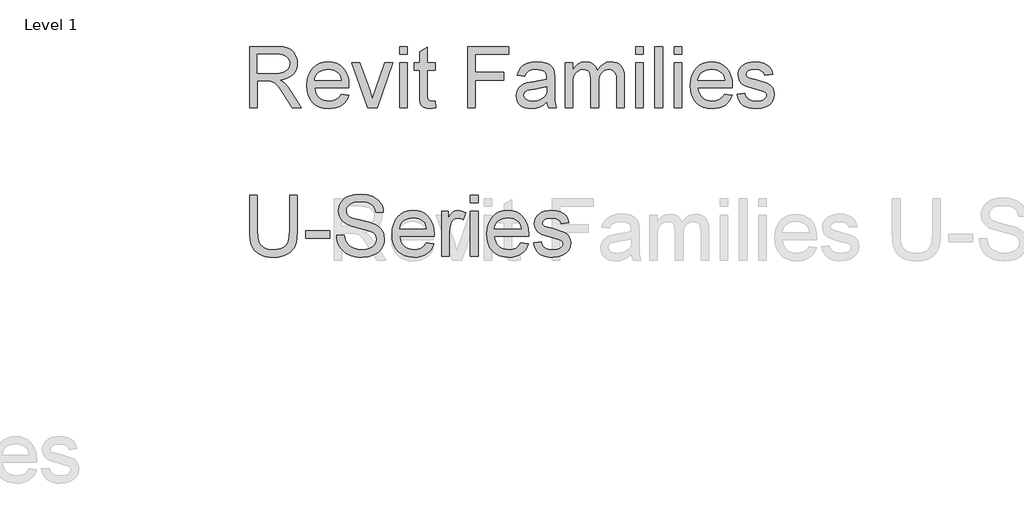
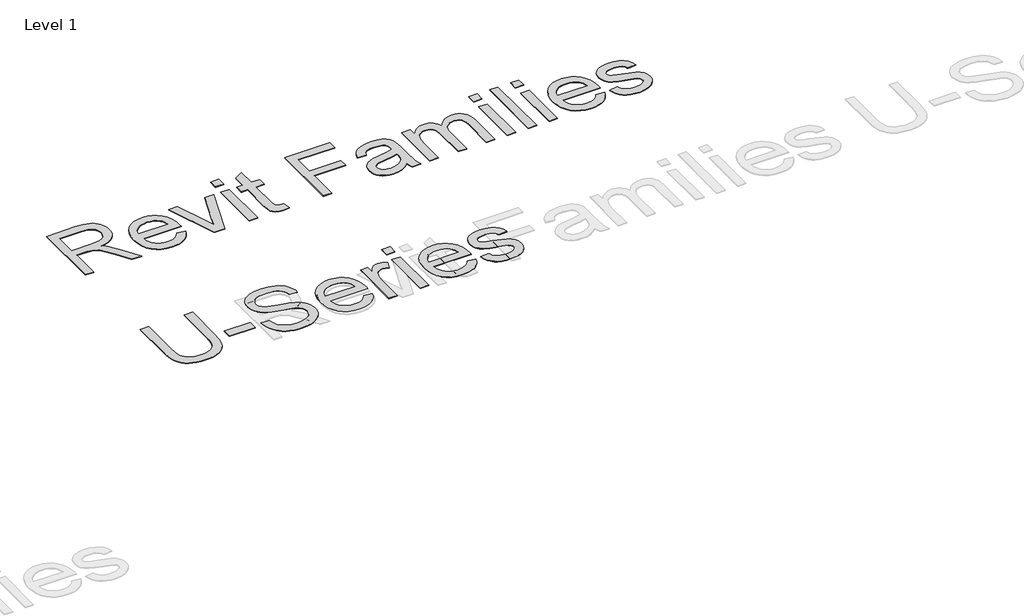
# One storey, part 28 of 29: 1 proxy.
"""IFC4 building model written with IfcOpenShell, lengths in millimetres."""

from ifc_helpers import new_model, si_unit, origin, origin_with_axes, place, context, project, spatial, polyline, outline, extrude, element, save

model = new_model("IFC4")

# Units and contexts
model_context = context("Model", 3, world=origin())
ifc_project = project(units=[si_unit("LENGTHUNIT", "METRE", prefix="MILLI")], contexts=[model_context])

# Site, building, storey
site = spatial("IfcSite", under=ifc_project)
building = spatial("IfcBuilding", under=site)
storey = spatial("IfcBuildingStorey", under=building, Name="Level 1", Elevation=0.0)

# Proxy
placement = place(None, origin())
element("IfcBuildingElementProxy", 1, Name="600mm Arial", ObjectType="600mm Arial", at=placement, inside=storey, context=model_context, shape_type="SweptSolid", body=[
    extrude(outline(polyline([(-11307.9845266, 22041.6162982), (-11307.9845266, 22644.3541591), (-11048.259838, 22644.3541591), (-10978.4542294, 22640.2890631), (-10927.66812, 22628.0937749), (-10908.0692067, 22618.4000843), (-10890.5488267, 22605.5793968), (-10875.1069799, 22589.6317123), (-10861.7436665, 22570.5570309), (-10850.9601255, 22549.3808235), (-10843.2575962, 22527.1285613), (-10838.6360786, 22503.8002443), (-10837.0955728, 22479.3958725), (-10839.6477541, 22448.4386026), (-10847.3042981, 22420.0197184), (-10860.0652048, 22394.1392201), (-10877.9304742, 22370.7971075), (-10901.1300326, 22350.7383417), (-10929.8938061, 22334.7078838), (-10964.2217947, 22322.7057337), (-11004.1139986, 22314.7318914), (-10979.2819639, 22298.5082954), (-10961.2925343, 22282.5054286), (-10930.427235, 22245.9011701), (-10900.2241231, 22204.9559041), (-10799.7187621, 22041.6162982), (-10887.2746769, 22041.6162982), (-10965.7071183, 22166.5490238), (-11022.3609455, 22249.2488963), (-11043.4221898, 22273.3635611), (-11062.1657774, 22288.3179642), (-11097.9974838, 22302.665362), (-11141.7018648, 22305.3141124), (-11232.642294, 22305.3141124), (-11232.642294, 22041.6162982), (-11307.9845266, 22041.6162982)]), holes=[polyline([(-11232.642294, 22380.656345), (-11064.0051874, 22380.656345), (-11015.5735227, 22383.3234894), (-10977.9943769, 22391.3249228), (-10949.7042515, 22405.194074), (-10929.139648, 22425.464372), (-10916.613266, 22449.983707), (-10912.4378054, 22476.5999693), (-10914.4289667, 22495.8677888), (-10920.4024506, 22513.3513806), (-10930.3582571, 22529.0507448), (-10944.2963862, 22542.9658812), (-10962.5387346, 22554.361026), (-10985.4071991, 22562.5004152), (-11012.9017797, 22567.3840487), (-11045.0224764, 22569.0119265), (-11232.642294, 22569.0119265), (-11232.642294, 22380.656345)])]), origin_with_axes(), (0.0, 0.0, 1.0), 5.0),
    extrude(outline(polyline([(-10404.760652, 22173.4652053), (-10330.8899474, 22164.0474262), (-10342.2161143, 22134.4605167), (-10357.5062098, 22108.3868803), (-10376.7602337, 22085.826517), (-10399.9781861, 22066.7794267), (-10426.9209437, 22051.6502796), (-10457.3493833, 22040.843746), (-10491.2635047, 22034.3598259), (-10528.663308, 22032.1985191), (-10575.4119126, 22035.9279229), (-10617.0653515, 22047.116134), (-10653.6236247, 22065.7631527), (-10685.0867324, 22091.8689787), (-10710.3878166, 22124.7070453), (-10728.4600196, 22163.5507855), (-10739.3033414, 22208.4001992), (-10742.917782, 22259.2552866), (-10739.2665532, 22311.8348207), (-10728.3128668, 22358.1787551), (-10710.0567228, 22398.2870896), (-10684.4981212, 22432.1598243), (-10653.117787, 22459.0703922), (-10617.3964453, 22478.2922265), (-10577.334096, 22489.825327), (-10532.9307392, 22493.6696939), (-10489.9575236, 22489.8345241), (-10451.0953893, 22478.3290147), (-10416.3443364, 22459.1531657), (-10385.7043647, 22432.3069771), (-10360.6929875, 22398.5078188), (-10342.8277182, 22358.4730607), (-10332.1085565, 22312.2027027), (-10328.5355026, 22259.6967449), (-10328.976961, 22239.3896588), (-10667.5755494, 22239.3896588), (-10663.2115492, 22209.3245028), (-10654.5341327, 22182.993349), (-10641.5432997, 22160.3961974), (-10624.2390504, 22141.5330481), (-10603.5778778, 22126.6614184), (-10580.5162752, 22116.0388258), (-10555.0542426, 22109.6652703), (-10527.19178, 22107.5407517), (-10487.0926426, 22111.4770891), (-10453.3210754, 22123.2861011), (-10425.8770786, 22143.7035519), (-10404.760652, 22173.4652053)]), holes=[polyline([(-10667.5755494, 22314.7318914), (-10403.8777353, 22314.7318914), (-10414.0680665, 22354.5367233), (-10422.8328551, 22370.1901022), (-10434.0440589, 22383.0107897), (-10454.5902683, 22398.4618335), (-10477.9691691, 22409.4982934), (-10504.1807612, 22416.1201693), (-10533.2250448, 22418.3274613), (-10559.7171469, 22416.5662262), (-10584.0111542, 22411.2825211), (-10606.1070665, 22402.4763458), (-10626.0048839, 22390.1477004), (-10642.702128, 22374.8668021), (-10655.1963203, 22357.2038678), (-10663.4874607, 22337.1588976), (-10667.5755494, 22314.7318914)])]), origin_with_axes(), (0.0, 0.0, 1.0), 5.0),
    extrude(outline(polyline([(-10144.3001995, 22041.6162982), (-10300.2821654, 22484.2519148), (-10220.6725017, 22484.2519148), (-10126.2004053, 22219.0825727), (-10097.7999153, 22129.9079771), (-10069.9880364, 22214.0793775), (-9975.0744817, 22484.2519148), (-9895.3176651, 22484.2519148), (-10049.0923391, 22041.6162982), (-10144.3001995, 22041.6162982)])), origin_with_axes(), (0.0, 0.0, 1.0), 5.0),
    extrude(outline(polyline([(-9829.3932116, 22569.0119265), (-9829.3932116, 22644.3541591), (-9754.050979, 22644.3541591), (-9754.050979, 22569.0119265), (-9829.3932116, 22569.0119265)])), origin_with_axes(), (0.0, 0.0, 1.0), 5.0),
    extrude(outline(polyline([(-9829.3932116, 22041.6162982), (-9829.3932116, 22484.2519148), (-9754.050979, 22484.2519148), (-9754.050979, 22041.6162982), (-9829.3932116, 22041.6162982)])), origin_with_axes(), (0.0, 0.0, 1.0), 5.0),
    extrude(outline(polyline([(-9480.9353858, 22104.450543), (-9471.5176067, 22039.4090062), (-9527.8771283, 22032.1985191), (-9564.0399285, 22035.3255161), (-9591.0056787, 22044.706507), (-9610.0619661, 22059.1642694), (-9622.4963775, 22077.5215809), (-9629.3389826, 22109.0490679), (-9631.619851, 22163.0173566), (-9631.619851, 22408.9096822), (-9688.1265254, 22408.9096822), (-9688.1265254, 22484.2519148), (-9631.619851, 22484.2519148), (-9631.619851, 22591.8206102), (-9556.2776184, 22636.1136024), (-9556.2776184, 22484.2519148), (-9480.9353858, 22484.2519148), (-9480.9353858, 22408.9096822), (-9556.2776184, 22408.9096822), (-9556.2776184, 22165.2246486), (-9552.3044928, 22126.3763099), (-9539.428623, 22112.6175233), (-9528.55771, 22108.8099446), (-9513.7504597, 22107.5407517), (-9480.9353858, 22104.450543)])), origin_with_axes(), (0.0, 0.0, 1.0), 5.0),
    extrude(outline(polyline([(-9160.7308972, 22041.6162982), (-9160.7308972, 22644.3541591), (-8755.7663969, 22644.3541591), (-8755.7663969, 22569.0119265), (-9085.3886645, 22569.0119265), (-9085.3886645, 22390.074124), (-8802.8552922, 22390.074124), (-8802.8552922, 22314.7318914), (-9085.3886645, 22314.7318914), (-9085.3886645, 22041.6162982), (-9160.7308972, 22041.6162982)])), origin_with_axes(), (0.0, 0.0, 1.0), 5.0),
    extrude(outline(polyline([(-8379.0552338, 22098.1229727), (-8415.052487, 22067.2576733), (-8452.116598, 22047.0609517), (-8491.0936954, 22035.9141273), (-8532.8299078, 22032.1985191), (-8566.3761472, 22034.4334023), (-8595.7929113, 22041.1380516), (-8621.0801999, 22052.3124672), (-8642.2380132, 22067.9566491), (-8658.9444543, 22087.0773158), (-8670.8776265, 22108.6811859), (-8678.0375298, 22132.7682596), (-8680.4241643, 22159.3385367), (-8676.8189207, 22190.5717181), (-8666.00319, 22218.9354199), (-8649.3197416, 22243.2156316), (-8628.1113445, 22262.1983425), (-8603.1873394, 22276.5457403), (-8575.3570664, 22286.9200126), (-8510.1683769, 22298.250778), (-8433.1338871, 22310.1701547), (-8379.4966922, 22324.1496705), (-8379.0552338, 22340.9250895), (-8384.2423699, 22374.5495038), (-8390.7262901, 22387.0023094), (-8399.8037783, 22396.5488472), (-8415.4939454, 22406.0769908), (-8434.6054151, 22412.8828077), (-8483.092262, 22418.3274613), (-8527.9738654, 22414.7038236), (-8559.3174114, 22403.8329107), (-8580.6913554, 22383.7281596), (-8595.6641526, 22352.4030077), (-8671.0063852, 22361.8207868), (-8657.9281802, 22403.0235703), (-8638.4120404, 22435.3971858), (-8610.6369498, 22460.1556441), (-8572.7818925, 22478.5129557), (-8526.4839434, 22489.8805093), (-8473.3801774, 22493.6696939), (-8422.4469151, 22490.3219677), (-8382.0718662, 22480.2787893), (-8351.6296311, 22465.1772334), (-8330.4948104, 22446.6543749), (-8316.4785064, 22423.7537207), (-8307.3918211, 22395.5187776), (-8303.7130012, 22329.594324), (-8303.7130012, 22235.8579917), (-8299.8870284, 22104.9655778), (-8294.2216457, 22072.6103563), (-8284.877443, 22041.6162982), (-8360.2196756, 22041.6162982), (-8372.2862051, 22067.8094963), (-8379.0552338, 22098.1229727)]), holes=[polyline([(-8379.0552338, 22248.8074379), (-8429.6757963, 22236.2626619), (-8500.603445, 22225.7044486), (-8565.4242526, 22213.4907664), (-8582.291642, 22205.1398451), (-8594.7812358, 22193.6251386), (-8602.5067577, 22179.8295638), (-8605.0819316, 22164.6360374), (-8599.4717312, 22142.2320239), (-8582.6411299, 22123.8747123), (-8554.9580098, 22111.6242419), (-8516.7902528, 22107.5407517), (-8476.3232333, 22112.0473062), (-8440.5651034, 22125.5669695), (-8411.5760022, 22145.4877795), (-8391.4160688, 22169.1977741), (-8382.4765364, 22193.6251386), (-8379.4966922, 22227.4702822), (-8379.0552338, 22248.8074379)])]), origin_with_axes(), (0.0, 0.0, 1.0), 5.0),
    extrude(outline(polyline([(-8200.1174313, 22041.6162982), (-8200.1174313, 22484.2519148), (-8124.7751987, 22484.2519148), (-8124.7751987, 22411.4112798), (-8102.1136678, 22444.8701472), (-8072.9774138, 22471.0817394), (-8038.3597181, 22488.0227053), (-7999.253862, 22493.6696939), (-7957.3521027, 22487.9123407), (-7939.519023, 22480.7156491), (-7923.7644766, 22470.640281), (-7898.6749245, 22442.993949), (-7882.2673875, 22406.113779), (-7854.8049966, 22444.4194918), (-7823.4798447, 22471.7807152), (-7788.2919318, 22488.1974492), (-7749.2412581, 22493.6696939), (-7719.079533, 22491.393424), (-7692.6058249, 22484.5646145), (-7669.8201338, 22473.1832653), (-7650.7224598, 22457.2493764), (-7635.6255024, 22436.5790068), (-7624.8419614, 22410.9882155), (-7618.3718368, 22380.4770025), (-7616.2151286, 22345.0453678), (-7616.2151286, 22041.6162982), (-7691.5573612, 22041.6162982), (-7691.5573612, 22312.6717523), (-7693.3048007, 22350.2508981), (-7698.5471191, 22375.5795734), (-7708.3695684, 22392.9252095), (-7723.8574004, 22406.5552374), (-7743.7782104, 22415.3844053), (-7766.8995938, 22418.3274613), (-7788.2505451, 22416.442066), (-7807.7161012, 22410.7858804), (-7825.296262, 22401.3589042), (-7840.9910277, 22388.1611377), (-7853.8990872, 22370.8063045), (-7863.1191297, 22348.9081288), (-7868.6511552, 22322.4666104), (-7870.4951637, 22291.4817493), (-7870.4951637, 22041.6162982), (-7945.8373963, 22041.6162982), (-7945.8373963, 22321.0594617), (-7950.1967979, 22363.6601968), (-7955.64605, 22380.3804335), (-7963.2750029, 22394.0472496), (-7973.3871592, 22404.6698422), (-7986.2860217, 22412.2574083), (-8001.9715902, 22416.809948), (-8020.4438649, 22418.3274613), (-8049.4697543, 22414.2807593), (-8076.2147754, 22402.1406535), (-8098.2876951, 22382.2014493), (-8113.2972805, 22354.7574525), (-8121.9057192, 22316.681666), (-8124.7751987, 22264.8470929), (-8124.7751987, 22041.6162982), (-8200.1174313, 22041.6162982)])), origin_with_axes(), (0.0, 0.0, 1.0), 5.0),
    extrude(outline(polyline([(-7503.2017797, 22569.0119265), (-7503.2017797, 22644.3541591), (-7427.8595471, 22644.3541591), (-7427.8595471, 22569.0119265), (-7503.2017797, 22569.0119265)])), origin_with_axes(), (0.0, 0.0, 1.0), 5.0),
    extrude(outline(polyline([(-7503.2017797, 22041.6162982), (-7503.2017797, 22484.2519148), (-7427.8595471, 22484.2519148), (-7427.8595471, 22041.6162982), (-7503.2017797, 22041.6162982)])), origin_with_axes(), (0.0, 0.0, 1.0), 5.0),
    extrude(outline(polyline([(-7314.8461982, 22041.6162982), (-7314.8461982, 22644.3541591), (-7239.5039655, 22644.3541591), (-7239.5039655, 22041.6162982), (-7314.8461982, 22041.6162982)])), origin_with_axes(), (0.0, 0.0, 1.0), 5.0),
    extrude(outline(polyline([(-7126.4906166, 22569.0119265), (-7126.4906166, 22644.3541591), (-7051.148384, 22644.3541591), (-7051.148384, 22569.0119265), (-7126.4906166, 22569.0119265)])), origin_with_axes(), (0.0, 0.0, 1.0), 5.0),
    extrude(outline(polyline([(-7126.4906166, 22041.6162982), (-7126.4906166, 22484.2519148), (-7051.148384, 22484.2519148), (-7051.148384, 22041.6162982), (-7126.4906166, 22041.6162982)])), origin_with_axes(), (0.0, 0.0, 1.0), 5.0),
    extrude(outline(polyline([(-6628.2312424, 22173.4652053), (-6554.3605377, 22164.0474262), (-6565.6867047, 22134.4605167), (-6580.9768001, 22108.3868803), (-6600.230824, 22085.826517), (-6623.4487764, 22066.7794267), (-6650.391534, 22051.6502796), (-6680.8199736, 22040.843746), (-6714.734095, 22034.3598259), (-6752.1338983, 22032.1985191), (-6798.8825029, 22035.9279229), (-6840.5359418, 22047.116134), (-6877.094215, 22065.7631527), (-6908.5573227, 22091.8689787), (-6933.8584069, 22124.7070453), (-6951.9306099, 22163.5507855), (-6962.7739317, 22208.4001992), (-6966.3883723, 22259.2552866), (-6962.7371435, 22311.8348207), (-6951.7834571, 22358.1787551), (-6933.5273131, 22398.2870896), (-6907.9687115, 22432.1598243), (-6876.5883773, 22459.0703922), (-6840.8670356, 22478.2922265), (-6800.8046863, 22489.825327), (-6756.4013295, 22493.6696939), (-6713.4281139, 22489.8345241), (-6674.5659796, 22478.3290147), (-6639.8149267, 22459.1531657), (-6609.174955, 22432.3069771), (-6584.1635779, 22398.5078188), (-6566.2983085, 22358.4730607), (-6555.5791468, 22312.2027027), (-6552.006093, 22259.6967449), (-6552.4475513, 22239.3896588), (-6891.0461397, 22239.3896588), (-6886.6821395, 22209.3245028), (-6878.004723, 22182.993349), (-6865.01389, 22160.3961974), (-6847.7096407, 22141.5330481), (-6827.0484681, 22126.6614184), (-6803.9868656, 22116.0388258), (-6778.524833, 22109.6652703), (-6750.6623704, 22107.5407517), (-6710.5632329, 22111.4770891), (-6676.7916657, 22123.2861011), (-6649.3476689, 22143.7035519), (-6628.2312424, 22173.4652053)]), holes=[polyline([(-6891.0461397, 22314.7318914), (-6627.3483256, 22314.7318914), (-6637.5386568, 22354.5367233), (-6646.3034454, 22370.1901022), (-6657.5146492, 22383.0107897), (-6678.0608586, 22398.4618335), (-6701.4397594, 22409.4982934), (-6727.6513516, 22416.1201693), (-6756.6956351, 22418.3274613), (-6783.1877372, 22416.5662262), (-6807.4817445, 22411.2825211), (-6829.5776568, 22402.4763458), (-6849.4754743, 22390.1477004), (-6866.1727183, 22374.8668021), (-6878.6669106, 22357.2038678), (-6886.958051, 22337.1588976), (-6891.0461397, 22314.7318914)])]), origin_with_axes(), (0.0, 0.0, 1.0), 5.0),
    extrude(outline(polyline([(-6504.9171976, 22173.4652053), (-6429.574965, 22182.8829844), (-6425.0224253, 22165.7028952), (-6417.6923765, 22150.6565216), (-6407.5848187, 22137.7438635), (-6394.6997518, 22126.9649211), (-6379.0003877, 22118.466847), (-6360.4499381, 22112.3967941), (-6314.7957825, 22107.5407517), (-6269.6934499, 22111.9921239), (-6252.1638728, 22117.5563391), (-6237.9820219, 22125.3462403), (-6219.2200401, 22144.6968333), (-6214.5295447, 22155.530958), (-6212.9660462, 22167.137635), (-6214.5387417, 22177.3095721), (-6219.2568283, 22186.3410751), (-6238.1291747, 22200.9827785), (-6266.3457237, 22210.5477104), (-6315.6786993, 22222.467087), (-6384.4358442, 22242.3511089), (-6429.1335066, 22259.328863), (-6457.8466963, 22277.8517214), (-6478.6504231, 22302.3710564), (-6491.2871697, 22331.3233694), (-6495.4994185, 22363.145162), (-6492.1149041, 22392.3365983), (-6481.9613611, 22419.2839545), (-6465.9584943, 22442.9203726), (-6445.0260088, 22462.1789951), (-6424.2222819, 22474.3007068), (-6397.127773, 22484.472644), (-6365.8026211, 22491.3704314), (-6332.3069654, 22493.6696939), (-6283.2682955, 22489.9724798), (-6240.6307722, 22478.8808377), (-6206.3441703, 22461.4800193), (-6182.3582642, 22438.8552766), (-6166.465762, 22409.3327465), (-6156.4593717, 22371.2385659), (-6231.8016044, 22361.8207868), (-6241.3113539, 22385.5307814), (-6260.128518, 22403.3914523), (-6288.4370375, 22414.593459), (-6326.4208535, 22418.3274613), (-6369.6837761, 22414.7590059), (-6398.5257246, 22404.0536399), (-6414.7493206, 22388.6025961), (-6420.1571859, 22370.7971075), (-6417.9131057, 22359.2088246), (-6411.1808652, 22348.8713406), (-6399.6661588, 22339.6375025), (-6383.0746808, 22332.2430744), (-6318.1802968, 22316.2034194), (-6207.5949691, 22280.7395951), (-6178.3851387, 22263.7802351), (-6156.2386425, 22240.5668812), (-6142.2775208, 22211.025957), (-6137.6238136, 22175.0838861), (-6143.0868612, 22137.9278045), (-6159.4760041, 22102.979015), (-6186.1658429, 22072.9782383), (-6222.5309781, 22050.6661953), (-6266.4560883, 22036.8154382), (-6315.8258521, 22032.1985191), (-6356.375645, 22034.4242052), (-6391.7934841, 22041.1012634), (-6422.0793693, 22052.2296938), (-6447.2333007, 22067.8094963), (-6467.7795102, 22087.7670945), (-6484.2422294, 22112.0289121), (-6496.6214586, 22140.594949), (-6504.9171976, 22173.4652053)])), origin_with_axes(), (0.0, 0.0, 1.0), 5.0),
    extrude(outline(polyline([(-10912.4378054, 21180.656345), (-10837.0955728, 21180.656345), (-10837.0955728, 20832.9342831), (-10842.2091325, 20751.5036035), (-10848.6010822, 20717.8102113), (-10857.5498117, 20688.7981174), (-10869.8278733, 20663.3682745), (-10886.2078191, 20640.421635), (-10906.6896492, 20619.9581991), (-10931.2733635, 20601.9779665), (-10959.9865533, 20587.3316646), (-10992.8568095, 20576.8700204), (-11029.8841323, 20570.5930338), (-11071.0685217, 20568.500705), (-11111.2366371, 20570.3217209), (-11147.5695826, 20575.7847685), (-11180.0673584, 20584.8898479), (-11208.7299643, 20597.636959), (-11233.561999, 20613.8375624), (-11254.5680609, 20633.3031184), (-11271.7481501, 20656.0336272), (-11285.1022665, 20682.0290887), (-11295.1132553, 20712.1816167), (-11302.2639616, 20747.3833251), (-11306.5543853, 20787.6342139), (-11307.9845266, 20832.9342831), (-11307.9845266, 21180.656345), (-11232.642294, 21180.656345), (-11232.642294, 20835.5830335), (-11228.9266858, 20767.8743523), (-11217.7798614, 20720.7302746), (-11209.0150728, 20703.3524488), (-11197.5831398, 20688.0807475), (-11183.4840624, 20674.9151706), (-11166.7178405, 20663.8557181), (-11126.4715502, 20648.8461327), (-11078.131856, 20643.8429376), (-11036.6071758, 20646.316944), (-11001.5020364, 20653.7389633), (-10972.8164378, 20666.1089954), (-10950.5503801, 20683.4270403), (-10933.8761287, 20707.7808284), (-10921.9659491, 20741.2580899), (-10914.8198413, 20783.858825), (-10912.4378054, 20835.5830335), (-10912.4378054, 21180.656345)])), origin_with_axes(), (0.0, 0.0, 1.0), 5.0),
    extrude(outline(polyline([(-10752.3355611, 20756.8562865), (-10752.3355611, 20832.1985191), (-10516.8910842, 20832.1985191), (-10516.8910842, 20756.8562865), (-10752.3355611, 20756.8562865)])), origin_with_axes(), (0.0, 0.0, 1.0), 5.0),
    extrude(outline(polyline([(-10450.9666306, 20785.1096237), (-10375.624398, 20785.1096237), (-10366.9791711, 20743.299835), (-10351.3441863, 20709.6938147), (-10326.9536101, 20683.0223701), (-10292.0416087, 20662.0163082), (-10249.3672973, 20648.3862802), (-10201.6897907, 20643.8429376), (-10159.7144551, 20647.2826343), (-10122.9630437, 20657.6017242), (-10093.1829962, 20673.9356848), (-10072.121752, 20695.4199933), (-10059.5953701, 20720.0864811), (-10055.4199094, 20745.9669795), (-10058.5469064, 20771.1852902), (-10067.9278973, 20792.9822984), (-10086.9841846, 20811.5787333), (-10119.137071, 20827.195324), (-10228.8394819, 20855.963696), (-10300.8523825, 20875.0015893), (-10346.9296024, 20893.1197775), (-10384.4351718, 20918.466847), (-10411.014646, 20949.1849936), (-10426.8519659, 20984.6120297), (-10432.1310725, 21024.0857678), (-10430.4985961, 21046.521971), (-10425.6011671, 21068.2132131), (-10417.4387853, 21089.1594942), (-10406.0114508, 21109.3608143), (-10391.4479223, 21127.9940374), (-10373.8769585, 21144.2360274), (-10353.2985594, 21158.0867846), (-10329.712725, 21169.5463087), (-10276.7009295, 21184.9421702), (-10218.0237513, 21190.074124), (-10154.4537425, 21184.7030469), (-10098.8299849, 21168.5898155), (-10074.4945909, 21156.5876654), (-10053.1390411, 21142.0655237), (-10034.7633354, 21125.0233902), (-10019.3674739, 21105.4612651), (-10007.0710182, 21083.9493655), (-9997.99353, 21061.0579083), (-9992.1350092, 21036.7868937), (-9989.4954559, 21011.1363216), (-10064.8376885, 21011.1363216), (-10069.8776718, 21035.17741), (-10078.6700515, 21056.0915014), (-10091.2148276, 21073.8785959), (-10107.5119999, 21088.5386934), (-10127.8650713, 21099.9982175), (-10152.5775443, 21108.1835919), (-10181.649419, 21113.0948165), (-10215.0806953, 21114.7318914), (-10249.5788294, 21113.1132106), (-10279.0553743, 21108.2571683), (-10303.5103299, 21100.1637644), (-10322.9436963, 21088.832999), (-10337.7509466, 21075.2121681), (-10348.327554, 21060.2485679), (-10354.6735184, 21043.9421985), (-10356.7888399, 21026.2930598), (-10355.2897207, 21011.1087304), (-10350.7923634, 20997.3407468), (-10343.2967677, 20984.9891088), (-10332.8029338, 20974.0538165), (-10316.2850322, 20963.6979383), (-10290.2757751, 20953.2316955), (-10209.7831946, 20931.9681162), (-10126.7154401, 20911.7713947), (-10076.4627595, 20894.1498471), (-10033.5125366, 20866.8162149), (-10016.9072631, 20850.7489687), (-10003.5485481, 20833.0814359), (-9993.2800419, 20813.9055869), (-9985.9453946, 20793.3133922), (-9980.0776768, 20747.8799658), (-9981.7653355, 20724.3125255), (-9986.8283114, 20701.4348639), (-9995.2666047, 20679.2469811), (-10007.0802153, 20657.748877), (-10022.0622095, 20637.7728847), (-10040.0056538, 20620.1513371), (-10060.9105482, 20604.8842343), (-10084.7768926, 20591.9715763), (-10110.9103099, 20581.7030701), (-10138.6164226, 20574.3684228), (-10198.7467347, 20568.500705), (-10237.2869723, 20570.0825976), (-10272.5622571, 20574.8282753), (-10304.5725892, 20582.7377382), (-10333.3179686, 20593.8109863), (-10358.9731392, 20608.0664136), (-10381.712845, 20625.5224142), (-10401.5370861, 20646.1789883), (-10418.4458623, 20670.0361357), (-10432.0666931, 20696.3213042), (-10442.0270982, 20724.2619417), (-10448.3270773, 20753.8580483), (-10450.9666306, 20785.1096237)])), origin_with_axes(), (0.0, 0.0, 1.0), 5.0),
    extrude(outline(polyline([(-9566.5783142, 20709.7673911), (-9492.7076096, 20700.3496121), (-9504.0337765, 20670.7627026), (-9519.323872, 20644.6890662), (-9538.5778959, 20622.1287028), (-9561.7958483, 20603.0816125), (-9588.7386059, 20587.9524655), (-9619.1670454, 20577.1459319), (-9653.0811669, 20570.6620117), (-9690.4809702, 20568.500705), (-9737.2295747, 20572.2301087), (-9778.8830136, 20583.4183199), (-9815.4412869, 20602.0653385), (-9846.9043946, 20628.1711646), (-9872.2054788, 20661.0092312), (-9890.2776818, 20699.8529714), (-9901.1210036, 20744.7023851), (-9904.7354442, 20795.5574724), (-9901.0842154, 20848.1370066), (-9890.130529, 20894.4809409), (-9871.874385, 20934.5892754), (-9846.3157834, 20968.4620101), (-9814.9354492, 20995.3725781), (-9779.2141074, 21014.5944123), (-9739.1517582, 21026.1275129), (-9694.7484014, 21029.9718797), (-9651.7751858, 21026.1367099), (-9612.9130515, 21014.6312005), (-9578.1619986, 20995.4553515), (-9547.5220269, 20968.6091629), (-9522.5106497, 20934.8100046), (-9504.6453803, 20894.7752465), (-9493.9262187, 20848.5048886), (-9490.3531648, 20795.9989308), (-9490.7946232, 20775.6918447), (-9829.3932116, 20775.6918447), (-9825.0292114, 20745.6266886), (-9816.3517949, 20719.2955348), (-9803.3609619, 20696.6983833), (-9786.0567126, 20677.835234), (-9765.39554, 20662.9636043), (-9742.3339374, 20652.3410117), (-9716.8719048, 20645.9674561), (-9689.0094422, 20643.8429376), (-9648.9103048, 20647.7792749), (-9615.1387376, 20659.588287), (-9587.6947408, 20680.0057377), (-9566.5783142, 20709.7673911)]), holes=[polyline([(-9829.3932116, 20851.0340773), (-9565.6953974, 20851.0340773), (-9575.8857287, 20890.8389092), (-9584.6505172, 20906.4922881), (-9595.861721, 20919.3129756), (-9616.4079305, 20934.7640194), (-9639.7868313, 20945.8004792), (-9665.9984234, 20952.4223552), (-9695.0427069, 20954.6296471), (-9721.5348091, 20952.8684121), (-9745.8288164, 20947.5847069), (-9767.9247287, 20938.7785317), (-9787.8225461, 20926.4498863), (-9804.5197902, 20911.1689879), (-9817.0139824, 20893.5060536), (-9825.3051229, 20873.4610834), (-9829.3932116, 20851.0340773)])]), origin_with_axes(), (0.0, 0.0, 1.0), 5.0),
    extrude(outline(polyline([(-9415.0109322, 20577.9184841), (-9415.0109322, 21020.5541007), (-9349.0864787, 21020.5541007), (-9349.0864787, 20955.0711055), (-9324.7326906, 20993.0365274), (-9302.2918889, 21015.4037527), (-9279.7775108, 21026.329848), (-9255.2029935, 21029.9718797), (-9217.67903, 21024.1593442), (-9179.5664553, 21006.7217376), (-9204.7295838, 20939.1786033), (-9231.2170874, 20950.7668862), (-9257.7045911, 20954.6296471), (-9280.2005751, 20950.914039), (-9300.3053261, 20939.7672145), (-9316.5473162, 20922.0353024), (-9327.4550174, 20898.5644311), (-9336.615279, 20856.4787308), (-9339.6686996, 20810.5670578), (-9339.6686996, 20577.9184841), (-9415.0109322, 20577.9184841)])), origin_with_axes(), (0.0, 0.0, 1.0), 5.0),
    extrude(outline(polyline([(-9132.4775599, 21105.3141124), (-9132.4775599, 21180.656345), (-9057.1353273, 21180.656345), (-9057.1353273, 21105.3141124), (-9132.4775599, 21105.3141124)])), origin_with_axes(), (0.0, 0.0, 1.0), 5.0),
    extrude(outline(polyline([(-9132.4775599, 20577.9184841), (-9132.4775599, 21020.5541007), (-9057.1353273, 21020.5541007), (-9057.1353273, 20577.9184841), (-9132.4775599, 20577.9184841)])), origin_with_axes(), (0.0, 0.0, 1.0), 5.0),
    extrude(outline(polyline([(-8634.2181857, 20709.7673911), (-8560.347481, 20700.3496121), (-8571.673648, 20670.7627026), (-8586.9637434, 20644.6890662), (-8606.2177673, 20622.1287028), (-8629.4357197, 20603.0816125), (-8656.3784773, 20587.9524655), (-8686.8069169, 20577.1459319), (-8720.7210383, 20570.6620117), (-8758.1208416, 20568.500705), (-8804.8694462, 20572.2301087), (-8846.5228851, 20583.4183199), (-8883.0811583, 20602.0653385), (-8914.544266, 20628.1711646), (-8939.8453502, 20661.0092312), (-8957.9175532, 20699.8529714), (-8968.760875, 20744.7023851), (-8972.3753156, 20795.5574724), (-8968.7240868, 20848.1370066), (-8957.7704004, 20894.4809409), (-8939.5142564, 20934.5892754), (-8913.9556548, 20968.4620101), (-8882.5753206, 20995.3725781), (-8846.8539789, 21014.5944123), (-8806.7916296, 21026.1275129), (-8762.3882728, 21029.9718797), (-8719.4150572, 21026.1367099), (-8680.5529229, 21014.6312005), (-8645.80187, 20995.4553515), (-8615.1618983, 20968.6091629), (-8590.1505212, 20934.8100046), (-8572.2852518, 20894.7752465), (-8561.5660901, 20848.5048886), (-8557.9930363, 20795.9989308), (-8558.4344946, 20775.6918447), (-8897.033083, 20775.6918447), (-8892.6690828, 20745.6266886), (-8883.9916663, 20719.2955348), (-8871.0008333, 20696.6983833), (-8853.696584, 20677.835234), (-8833.0354114, 20662.9636043), (-8809.9738089, 20652.3410117), (-8784.5117763, 20645.9674561), (-8756.6493137, 20643.8429376), (-8716.5501762, 20647.7792749), (-8682.778609, 20659.588287), (-8655.3346122, 20680.0057377), (-8634.2181857, 20709.7673911)]), holes=[polyline([(-8897.033083, 20851.0340773), (-8633.3352689, 20851.0340773), (-8643.5256001, 20890.8389092), (-8652.2903887, 20906.4922881), (-8663.5015925, 20919.3129756), (-8684.0478019, 20934.7640194), (-8707.4267027, 20945.8004792), (-8733.6382949, 20952.4223552), (-8762.6825784, 20954.6296471), (-8789.1746805, 20952.8684121), (-8813.4686878, 20947.5847069), (-8835.5646001, 20938.7785317), (-8855.4624176, 20926.4498863), (-8872.1596616, 20911.1689879), (-8884.6538539, 20893.5060536), (-8892.9449943, 20873.4610834), (-8897.033083, 20851.0340773)])]), origin_with_axes(), (0.0, 0.0, 1.0), 5.0),
    extrude(outline(polyline([(-8510.9041409, 20709.7673911), (-8435.5619083, 20719.1851702), (-8431.0093686, 20702.005081), (-8423.6793198, 20686.9587074), (-8413.571762, 20674.0460494), (-8400.6866951, 20663.2671069), (-8384.987331, 20654.7690329), (-8366.4368814, 20648.6989799), (-8320.7827258, 20643.8429376), (-8275.6803932, 20648.2943097), (-8258.1508161, 20653.8585249), (-8243.9689652, 20661.6484262), (-8225.2069834, 20680.9990191), (-8220.516488, 20691.8331439), (-8218.9529895, 20703.4398208), (-8220.525685, 20713.611758), (-8225.2437716, 20722.643261), (-8244.116118, 20737.2849644), (-8272.332667, 20746.8498963), (-8321.6656426, 20758.7692729), (-8390.4227875, 20778.6532947), (-8435.1204499, 20795.6310488), (-8463.8336396, 20814.1539073), (-8484.6373664, 20838.6732422), (-8497.274113, 20867.6255553), (-8501.4863618, 20899.4473478), (-8498.1018474, 20928.6387842), (-8487.9483044, 20955.5861403), (-8471.9454376, 20979.2225585), (-8451.0129521, 20998.481181), (-8430.2092252, 21010.6028927), (-8403.1147163, 21020.7748299), (-8371.7895644, 21027.6726173), (-8338.2939087, 21029.9718797), (-8289.2552388, 21026.2746657), (-8246.6177155, 21015.1830235), (-8212.3311136, 20997.7822052), (-8188.3452075, 20975.1574625), (-8172.4527053, 20945.6349323), (-8162.446315, 20907.5407517), (-8237.7885477, 20898.1229727), (-8247.2982972, 20921.8329673), (-8266.1154613, 20939.6936381), (-8294.4239808, 20950.8956449), (-8332.4077968, 20954.6296471), (-8375.6707194, 20951.0611918), (-8404.5126679, 20940.3558257), (-8420.7362639, 20924.9047819), (-8426.1441292, 20907.0992933), (-8423.900049, 20895.5110105), (-8417.1678085, 20885.1735264), (-8405.6531021, 20875.9396884), (-8389.0616241, 20868.5452603), (-8324.1672401, 20852.5056053), (-8213.5819124, 20817.0417809), (-8184.372082, 20800.082421), (-8162.2255858, 20776.8690671), (-8148.2644641, 20747.3281428), (-8143.6107569, 20711.3860719), (-8149.0738045, 20674.2299904), (-8165.4629474, 20639.2812009), (-8192.1527862, 20609.2804242), (-8228.5179214, 20586.9683811), (-8272.4430316, 20573.117624), (-8321.8127954, 20568.500705), (-8362.3625883, 20570.7263911), (-8397.7804274, 20577.4034493), (-8428.0663126, 20588.5318796), (-8453.220244, 20604.1116821), (-8473.7664535, 20624.0692804), (-8490.2291727, 20648.3310979), (-8502.6084019, 20676.8971349), (-8510.9041409, 20709.7673911)])), origin_with_axes(), (0.0, 0.0, 1.0), 5.0),
])

save(model, "model.ifc")
